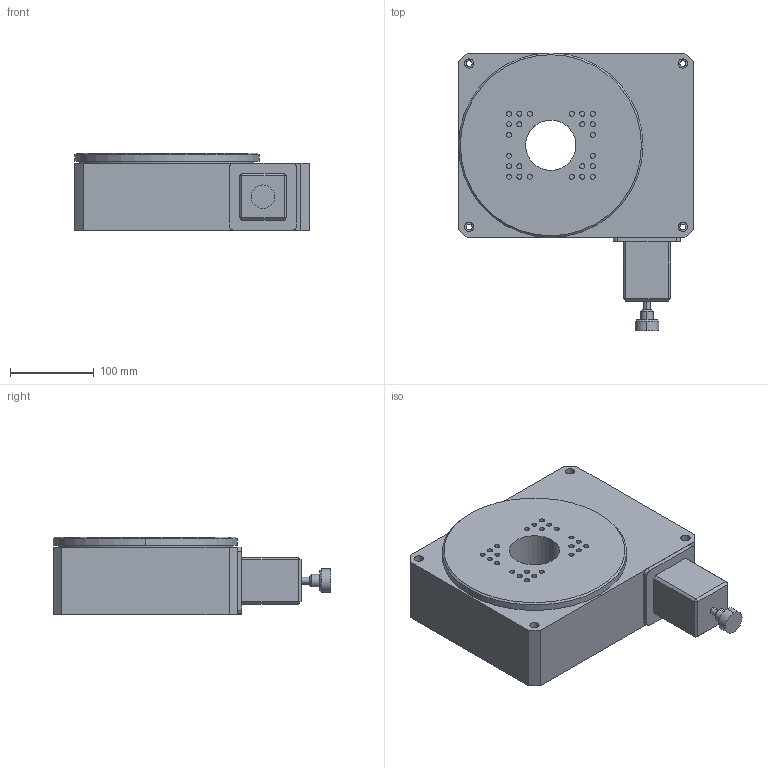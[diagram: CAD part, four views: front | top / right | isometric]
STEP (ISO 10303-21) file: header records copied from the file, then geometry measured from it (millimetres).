
FILE_DESCRIPTION (( 'STEP AP214' ), '1' );
FILE_NAME ('PT-GD220H(²½½øµç»ú£©.STEP', '2022-09-17T10:36:25', ( '' ), ( '' ), 'SwSTEP 2.0', 'SolidWorks 2017', '' );
FILE_SCHEMA (( 'AUTOMOTIVE_DESIGN' ));
Length unit declared in the file: millimetre
Products named in the file (1): PT-GD220H(步进电机）
Bounding box: 280 x 331.5 x 93 mm (x, y, z)
Volume: 5393214.2 mm3; surface area: 261162 mm2
Topology: 1 solids, 1 shells, 334 faces, 827 edges, 546 vertices
Faces by surface type: plane 172, cylinder 80, bspline 76, cone 6
Entity records: 13045 total; most frequent: CARTESIAN_POINT 5400, ORIENTED_EDGE 1654, DIRECTION 1361, EDGE_CURVE 827, VERTEX_POINT 546, LINE 507, VECTOR 507, AXIS2_PLACEMENT_3D 427
